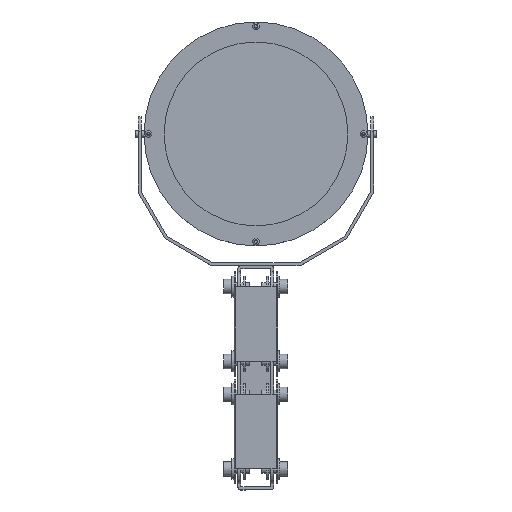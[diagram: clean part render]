
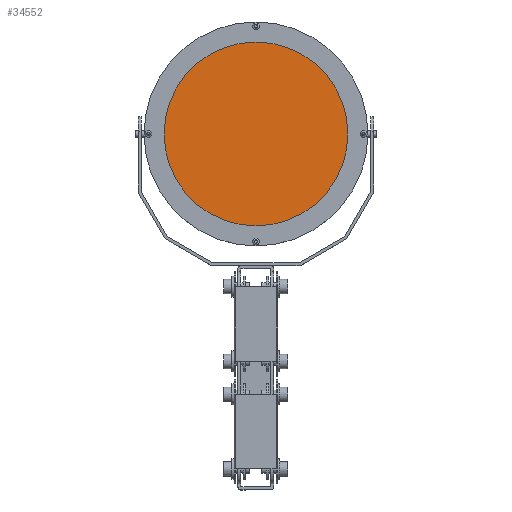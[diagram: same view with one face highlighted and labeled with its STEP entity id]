
A CAD part, top view. The second image highlights one B-rep face of the part: STEP entity #34552.
In plain terms, the highlighted planar face has unit normal (0.004, 0.004, 1).
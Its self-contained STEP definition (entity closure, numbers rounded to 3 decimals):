
#4921=FACE_OUTER_BOUND('',#7107,.T.);
#7107=EDGE_LOOP('',(#31364));
#12676=CIRCLE('',#38207,68.75);
#15944=VERTEX_POINT('',#85633);
#21092=EDGE_CURVE('',#15944,#15944,#12676,.T.);
#31364=ORIENTED_EDGE('',*,*,#21092,.T.);
#32536=PLANE('',#38209);
#34552=ADVANCED_FACE('',(#4921),#32536,.T.);
#38207=AXIS2_PLACEMENT_3D('',#85634,#47370,#47371);
#38209=AXIS2_PLACEMENT_3D('',#85638,#47375,#47376);
#47370=DIRECTION('center_axis',(0.004,0.004,
1.));
#47371=DIRECTION('ref_axis',(0.976,0.217,-0.004));
#47375=DIRECTION('center_axis',(0.004,0.004,
1.));
#47376=DIRECTION('ref_axis',(0.976,0.217,-0.004));
#85633=CARTESIAN_POINT('',(797.096,226.877,-33.956));
#85634=CARTESIAN_POINT('Origin',(864.21,241.784,-34.262));
#85638=CARTESIAN_POINT('Origin',(864.21,241.784,-34.262));
